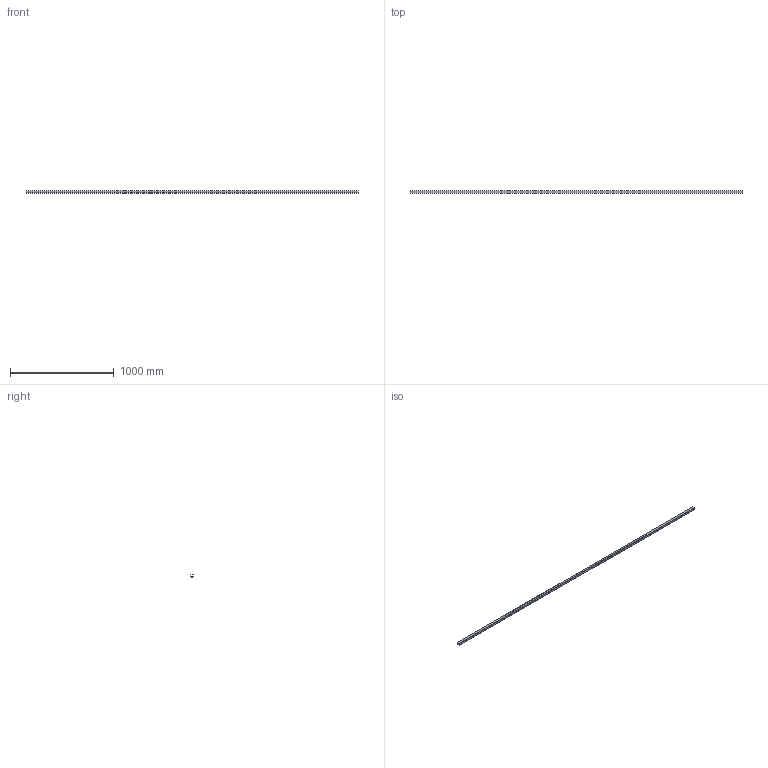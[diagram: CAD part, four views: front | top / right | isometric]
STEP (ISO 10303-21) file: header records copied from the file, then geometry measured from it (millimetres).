
FILE_DESCRIPTION( ( 'STEP AP214' ), '1' );
FILE_NAME( 'C:/Users/KOSH/Desktop/Same as task/Sliding folding/9158487.stp', '2021-07-01T11:29:13', ( '' ), ( '' ), ' ', 'PARTsolutions', ' ' );
FILE_SCHEMA( ( 'AUTOMOTIVE_DESIGN { 1 0 10303 214 1 1 1 1 }' ) );
Length unit declared in the file: millimetre
Products named in the file (1): _9158487
Bounding box: 3200 x 26 x 25 mm (x, y, z)
Volume: 261145.5 mm3; surface area: 528854.2 mm2
Topology: 1 solids, 1 shells, 30 faces, 84 edges, 56 vertices
Faces by surface type: plane 18, cylinder 12
Entity records: 1228 total; most frequent: CARTESIAN_POINT 171, DIRECTION 170, ORIENTED_EDGE 168, EDGE_CURVE 84, LINE 60, VECTOR 60, VERTEX_POINT 56, AXIS2_PLACEMENT_3D 55
